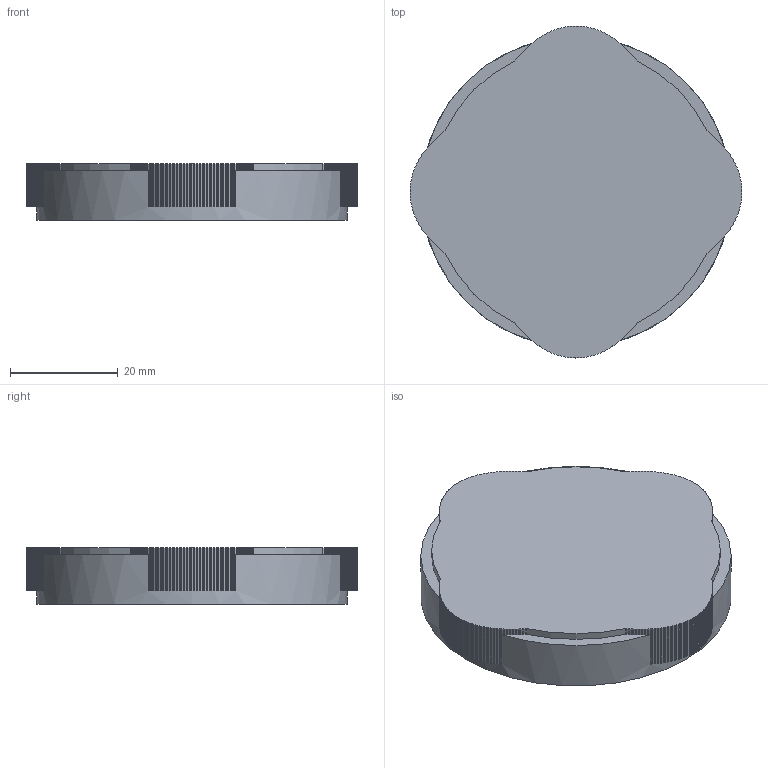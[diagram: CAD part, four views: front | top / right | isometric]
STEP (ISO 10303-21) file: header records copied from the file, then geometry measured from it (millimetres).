
FILE_DESCRIPTION(('Open CASCADE Model'),'2;1');
FILE_NAME('Open CASCADE Shape Model','2026-11-03T18:39:04',('Author'),( 'Open CASCADE'),'Open CASCADE STEP processor 7.9','Open CASCADE 7.9' ,'Unknown');
FILE_SCHEMA(('AUTOMOTIVE_DESIGN { 1 0 10303 214 1 1 1 1 }'));
Length unit declared in the file: millimetre
Products named in the file (1): Open CASCADE STEP translator 7.9 7
Bounding box: 61.6 x 61.6 x 10.5 mm (x, y, z)
Volume: 8689 mm3; surface area: 8874 mm2
Topology: 1 solids, 1 shells, 431 faces, 1275 edges, 850 vertices
Faces by surface type: plane 422, cylinder 9
Full cylindrical faces by diameter (mm): 5.2 x1, 7 x1, 50 x1, 51.95 x1, 57.6 x1
Entity records: 30385 total; most frequent: CARTESIAN_POINT 5485, DIRECTION 4372, LINE 3437, VECTOR 3437, ORIENTED_EDGE 2550, PCURVE 2550, DEFINITIONAL_REPRESENTATION 2550, EDGE_CURVE 1275
